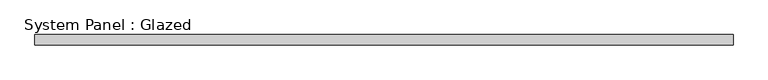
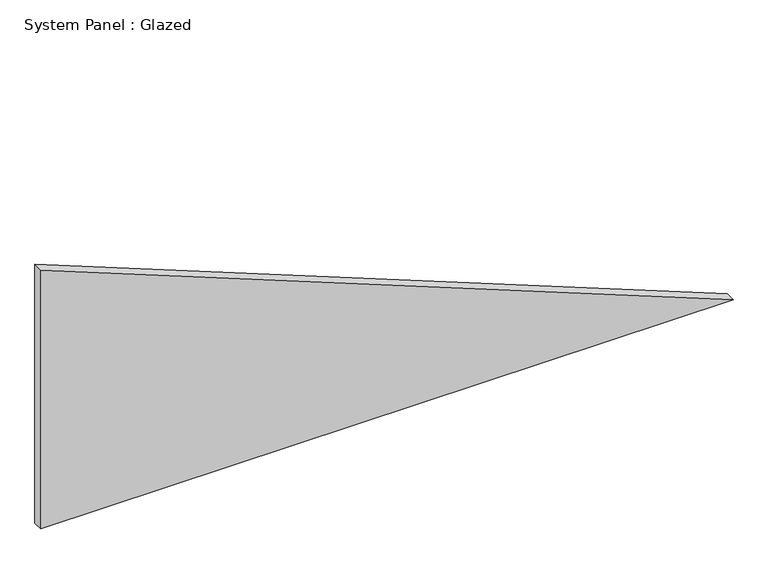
"""IFC4 building model written with IfcOpenShell, lengths in millimetres: plate geometry, System Panel : Glazed."""

from ifc_helpers import new_model, si_unit, frame, origin, place, context, project, spatial, polyline, outline, extrude, source, transform, mapped, element, save


def system_panel_glazed_3832c797(model_context):
    return source(origin(), model_context, "Body", "SweptSolid", [
        extrude(outline(polyline([(0.0, -854.5931859), (0.0, 854.5931859), (675.7371383, -854.5931859), (0.0, -854.5931859)])), frame((0.0, 19.05, 0.0), z_axis=(0.0, 1.0, 0.0), x_axis=(0.0, 0.0, 1.0)), (0.0, 0.0, 1.0), 25.4),
    ])


if __name__ == "__main__":
    model = new_model("IFC4")
    model_context = context("Model", 3, world=origin())
    ifc_project = project(units=[si_unit("LENGTHUNIT", "METRE", prefix="MILLI")], contexts=[model_context])
    site = spatial("IfcSite", under=ifc_project)
    building = spatial("IfcBuilding", under=site)
    placement = place(None, origin())
    system_panel_glazed_shape = system_panel_glazed_3832c797(model_context)
    element("IfcPlate", 1, ObjectType="System Panel : Glazed", at=placement, inside=building, context=model_context, shape_type="MappedRepresentation", body=[
        mapped(system_panel_glazed_shape, transform((0.0, 0.0, 0.0), x_axis=(1.0, 0.0, 0.0), y_axis=(0.0, 1.0, 0.0), z_axis=(0.0, 0.0, 1.0))),
    ])
    save(model, "model.ifc")
